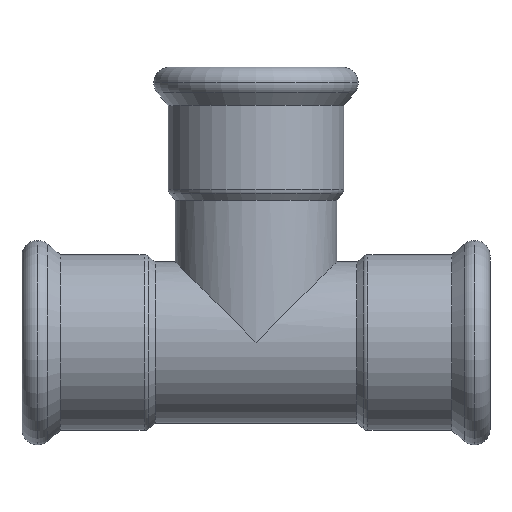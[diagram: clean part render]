
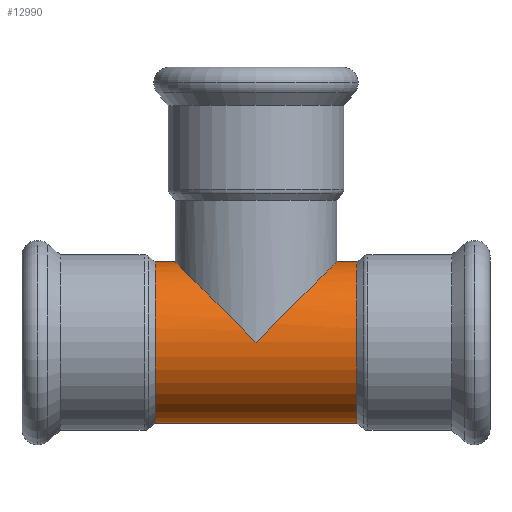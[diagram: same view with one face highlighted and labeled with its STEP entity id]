
A CAD part, top view. The second image highlights one B-rep face of the part: STEP entity #12990.
In plain terms, the highlighted cylindrical face has radius 17.594 mm (diameter 35.189 mm), a partial arc.
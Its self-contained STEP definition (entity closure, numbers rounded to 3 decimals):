
#3890=CARTESIAN_POINT('',(-310.511,162.522,0.));
#3900=DIRECTION('',(-1.,0.,0.));
#3910=DIRECTION('',(0.,-1.,0.));
#3920=AXIS2_PLACEMENT_3D('',#3890,#3900,#3910);
#3930=CYLINDRICAL_SURFACE('',#3920,17.594);
#3940=CARTESIAN_POINT('',(-310.511,180.116,
0.));
#3950=DIRECTION('',(-1.,0.,0.));
#3960=VECTOR('',#3950,1.);
#3970=LINE('',#3940,#3960);
#3980=CARTESIAN_POINT('',(-266.511,180.116,
0.));
#3990=VERTEX_POINT('',#3980);
#4000=CARTESIAN_POINT('',(-270.917,180.116,
0.));
#4010=VERTEX_POINT('',#4000);
#4020=EDGE_CURVE('',#3990,#4010,#3970,.T.);
#4040=CARTESIAN_POINT('',(-288.511,162.522,0.));
#4050=DIRECTION('',(-0.707,0.707,0.));
#4060=DIRECTION('',(0.707,0.707,0.));
#4070=AXIS2_PLACEMENT_3D('',#4040,#4050,#4060);
#4080=ELLIPSE('',#4070,24.882,17.594);
#4130=CARTESIAN_POINT('',(-288.511,162.522,0.));
#4140=DIRECTION('',(0.707,0.707,0.));
#4150=DIRECTION('',(-0.707,0.707,0.));
#4160=AXIS2_PLACEMENT_3D('',#4130,#4140,#4150);
#4170=ELLIPSE('',#4160,24.882,17.594);
#4180=CARTESIAN_POINT('',(-306.106,180.116,
0.));
#4190=VERTEX_POINT('',#4180);
#4220=CARTESIAN_POINT('',(-310.511,180.116,
0.));
#4230=VERTEX_POINT('',#4220);
#4240=EDGE_CURVE('',#4190,#4230,#3970,.T.);
#4260=CARTESIAN_POINT('',(-310.511,162.522,0.));
#4270=DIRECTION('',(-1.,0.,0.));
#4280=DIRECTION('',(0.,-1.,0.));
#4290=AXIS2_PLACEMENT_3D('',#4260,#4270,#4280);
#4300=CIRCLE('',#4290,17.594);
#4310=CARTESIAN_POINT('',(-310.511,144.928,0.));
#4320=VERTEX_POINT('',#4310);
#4350=CARTESIAN_POINT('',(-310.511,144.928,0.));
#4360=DIRECTION('',(-1.,0.,0.));
#4370=VECTOR('',#4360,1.);
#4380=LINE('',#4350,#4370);
#4390=CARTESIAN_POINT('',(-266.511,144.928,0.));
#4400=VERTEX_POINT('',#4390);
#4410=EDGE_CURVE('',#4400,#4320,#4380,.T.);
#4430=CARTESIAN_POINT('',(-266.511,162.522,0.));
#4440=DIRECTION('',(-1.,0.,0.));
#4450=DIRECTION('',(0.,-1.,0.));
#4460=AXIS2_PLACEMENT_3D('',#4430,#4440,#4450);
#4470=CIRCLE('',#4460,17.594);
#4710=CARTESIAN_POINT('',(-288.511,162.522,
17.594));
#4720=VERTEX_POINT('',#4710);
#4730=EDGE_CURVE('',#4720,#4010,#4080,.T.);
#4750=EDGE_CURVE('',#4190,#4720,#4170,.T.);
#11400=EDGE_CURVE('',#4320,#4230,#4300,.T.);
#12150=EDGE_CURVE('',#4400,#3990,#4470,.T.);
#12900=ORIENTED_EDGE('',*,*,#4730,.F.);
#12910=ORIENTED_EDGE('',*,*,#4020,.T.);
#12920=ORIENTED_EDGE('',*,*,#12150,.T.);
#12930=ORIENTED_EDGE('',*,*,#4410,.F.);
#12940=ORIENTED_EDGE('',*,*,#11400,.F.);
#12950=ORIENTED_EDGE('',*,*,#4240,.T.);
#12960=ORIENTED_EDGE('',*,*,#4750,.F.);
#12970=EDGE_LOOP('',(#12960,#12950,#12940,#12930,#12920,#12910,#12900));
#12980=FACE_OUTER_BOUND('',#12970,.T.);
#12990=ADVANCED_FACE('',(#12980),#3930,.T.);
